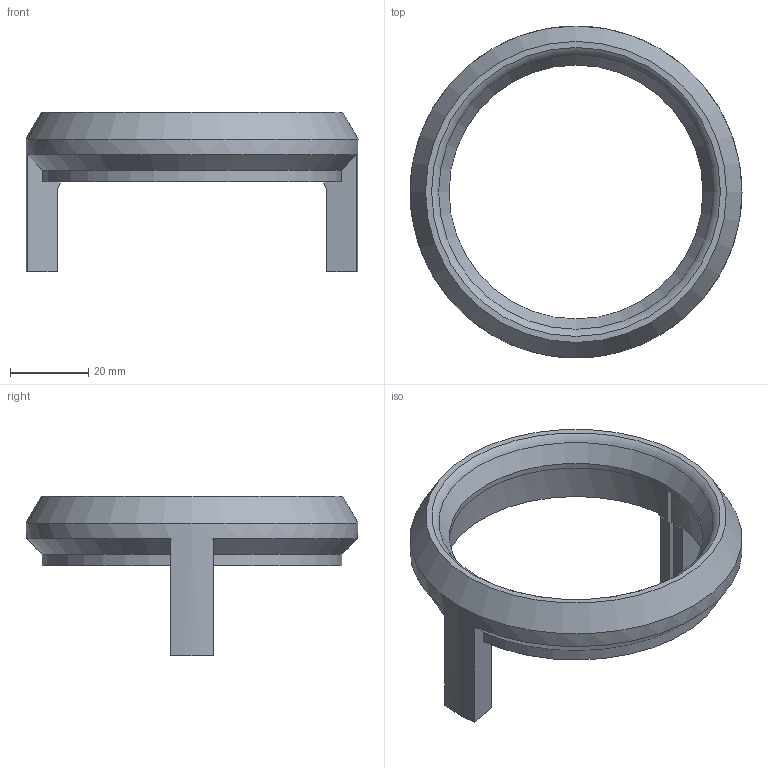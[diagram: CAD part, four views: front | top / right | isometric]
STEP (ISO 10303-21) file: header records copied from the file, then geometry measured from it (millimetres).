
FILE_DESCRIPTION(/* description */ (''),/* implementation_level */ '2;1');
FILE_NAME(/* name */ 'F:/F-Shared-Ryzen7 - PROD/F-OWL-PLANES/F16/STLs/OWLplane OWL F-16 Falcon v1.0/OWL F-16 Falcon 64mm - SUPPORT ver 0.9/F-16 Falcon 64mm EDF BRACKETS/STEP/EDF-64 QX-Motor Bracket v1.step',/* time_stamp */ '2022-10-07T18:54:51+07:00',/* author */ (''),/* organization */ (''),/* preprocessor_version */ 'ST-DEVELOPER v19',/* originating_system */ 'Autodesk Translation Framework v11.7.0.108',/* authorisation */ '');
FILE_SCHEMA (('AUTOMOTIVE_DESIGN { 1 0 10303 214 3 1 1 }'));
Length unit declared in the file: millimetre
Products named in the file (1): EDF-64 QX-Motor Bracket
Bounding box: 85 x 85 x 40.88 mm (x, y, z)
Volume: 31206.5 mm3; surface area: 13324 mm2
Topology: 1 solids, 1 shells, 35 faces, 99 edges, 66 vertices
Faces by surface type: plane 22, cylinder 8, cone 4, torus 1
Full cylindrical faces by diameter (mm): 65 x1, 85 x1
Entity records: 1184 total; most frequent: CARTESIAN_POINT 209, ORIENTED_EDGE 198, DIRECTION 198, EDGE_CURVE 99, AXIS2_PLACEMENT_3D 67, VERTEX_POINT 66, LINE 64, VECTOR 64
